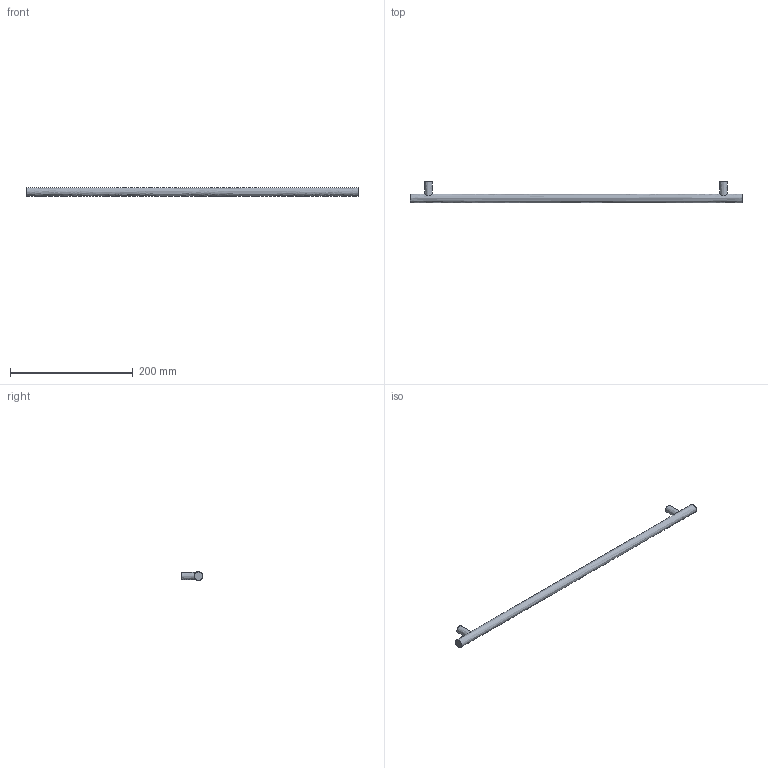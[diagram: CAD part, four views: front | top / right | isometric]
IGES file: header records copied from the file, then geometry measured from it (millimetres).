
Start section: Data from Parasolid IGES Translator 15.0.47, Copyright(c) 2006 Siemens P LM Software. All Rights Reserved.
Global section: file name: 9071111.igs; native system:  By UGS Corp.; preprocessor: XPlus GENERIC/IGES 3.0; author: Noname; organization: Noname; date: 20140122.181436; units: millimetre
Bounding box: 540 x 35 x 14 mm (x, y, z)
Surface area: 26030.1 mm2 (no closed solid volume)
Topology: 0 solids, 0 shells, 11 faces, 30 edges, 22 vertices
Faces by surface type: extrusion 6, revolution 5
